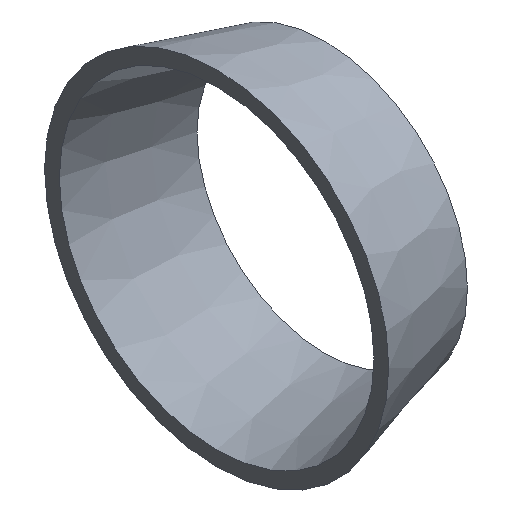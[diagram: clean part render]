
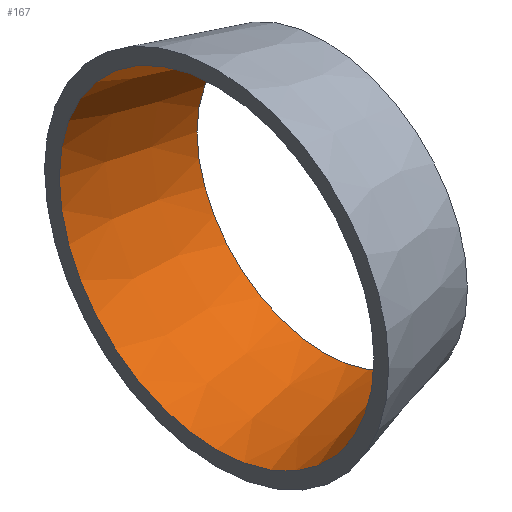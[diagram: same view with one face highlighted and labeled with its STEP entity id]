
A CAD part, isometric view. The second image highlights one B-rep face of the part: STEP entity #167.
In plain terms, the highlighted conical face has half-angle 15.255 degrees and reference radius 16 mm.
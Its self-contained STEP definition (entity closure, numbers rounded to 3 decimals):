
#43 = PLANE('',#44);
#44 = AXIS2_PLACEMENT_3D('',#45,#46,#47);
#45 = CARTESIAN_POINT('',(0.,0.,0.));
#46 = DIRECTION('',(1.,0.,0.));
#47 = DIRECTION('',(0.,1.,0.));
#90 = PLANE('',#91);
#91 = AXIS2_PLACEMENT_3D('',#92,#93,#94);
#92 = CARTESIAN_POINT('',(11.,0.,0.));
#93 = DIRECTION('',(1.,0.,0.));
#94 = DIRECTION('',(0.,1.,0.));
#109 = EDGE_CURVE('',#110,#110,#112,.T.);
#110 = VERTEX_POINT('',#111);
#111 = CARTESIAN_POINT('',(0.,16.,0.));
#112 = SURFACE_CURVE('',#113,(#118,#125),.PCURVE_S1.);
#113 = CIRCLE('',#114,16.);
#114 = AXIS2_PLACEMENT_3D('',#115,#116,#117);
#115 = CARTESIAN_POINT('',(0.,0.,0.));
#116 = DIRECTION('',(1.,0.,0.));
#117 = DIRECTION('',(0.,1.,0.));
#118 = PCURVE('',#43,#119);
#119 = DEFINITIONAL_REPRESENTATION('',(#120),#124);
#120 = CIRCLE('',#121,16.);
#121 = AXIS2_PLACEMENT_2D('',#122,#123);
#122 = CARTESIAN_POINT('',(0.,0.));
#123 = DIRECTION('',(1.,0.));
#124 = ( GEOMETRIC_REPRESENTATION_CONTEXT(2) 
PARAMETRIC_REPRESENTATION_CONTEXT() REPRESENTATION_CONTEXT('2D SPACE',''
  ) );
#125 = PCURVE('',#126,#131);
#126 = CONICAL_SURFACE('',#127,16.,0.266);
#127 = AXIS2_PLACEMENT_3D('',#128,#129,#130);
#128 = CARTESIAN_POINT('',(0.,0.,0.));
#129 = DIRECTION('',(-1.,-0.,-0.));
#130 = DIRECTION('',(0.,1.,0.));
#131 = DEFINITIONAL_REPRESENTATION('',(#132),#136);
#132 = LINE('',#133,#134);
#133 = CARTESIAN_POINT('',(-0.,-0.));
#134 = VECTOR('',#135,1.);
#135 = DIRECTION('',(-1.,-0.));
#136 = ( GEOMETRIC_REPRESENTATION_CONTEXT(2) 
PARAMETRIC_REPRESENTATION_CONTEXT() REPRESENTATION_CONTEXT('2D SPACE',''
  ) );
#144 = EDGE_CURVE('',#145,#145,#147,.T.);
#145 = VERTEX_POINT('',#146);
#146 = CARTESIAN_POINT('',(11.,13.,0.));
#147 = SURFACE_CURVE('',#148,(#153,#160),.PCURVE_S1.);
#148 = CIRCLE('',#149,13.);
#149 = AXIS2_PLACEMENT_3D('',#150,#151,#152);
#150 = CARTESIAN_POINT('',(11.,0.,0.));
#151 = DIRECTION('',(1.,0.,0.));
#152 = DIRECTION('',(0.,1.,0.));
#153 = PCURVE('',#90,#154);
#154 = DEFINITIONAL_REPRESENTATION('',(#155),#159);
#155 = CIRCLE('',#156,13.);
#156 = AXIS2_PLACEMENT_2D('',#157,#158);
#157 = CARTESIAN_POINT('',(0.,0.));
#158 = DIRECTION('',(1.,0.));
#159 = ( GEOMETRIC_REPRESENTATION_CONTEXT(2) 
PARAMETRIC_REPRESENTATION_CONTEXT() REPRESENTATION_CONTEXT('2D SPACE',''
  ) );
#160 = PCURVE('',#126,#161);
#161 = DEFINITIONAL_REPRESENTATION('',(#162),#166);
#162 = LINE('',#163,#164);
#163 = CARTESIAN_POINT('',(-0.,-11.));
#164 = VECTOR('',#165,1.);
#165 = DIRECTION('',(-1.,-0.));
#166 = ( GEOMETRIC_REPRESENTATION_CONTEXT(2) 
PARAMETRIC_REPRESENTATION_CONTEXT() REPRESENTATION_CONTEXT('2D SPACE',''
  ) );
#167 = ADVANCED_FACE('',(#168),#126,.F.);
#168 = FACE_BOUND('',#169,.F.);
#169 = EDGE_LOOP('',(#170,#188,#189,#190));
#170 = ORIENTED_EDGE('',*,*,#171,.F.);
#171 = EDGE_CURVE('',#110,#145,#172,.T.);
#172 = SEAM_CURVE('',#173,(#176,#182),.PCURVE_S1.);
#173 = B_SPLINE_CURVE_WITH_KNOTS('',1,(#174,#175),.UNSPECIFIED.,.F.,.F.,
  (2,2),(0.,1.),.PIECEWISE_BEZIER_KNOTS.);
#174 = CARTESIAN_POINT('',(0.,16.,0.));
#175 = CARTESIAN_POINT('',(11.,13.,0.));
#176 = PCURVE('',#126,#177);
#177 = DEFINITIONAL_REPRESENTATION('',(#178),#181);
#178 = B_SPLINE_CURVE_WITH_KNOTS('',1,(#179,#180),.UNSPECIFIED.,.F.,.F.,
  (2,2),(0.,1.),.PIECEWISE_BEZIER_KNOTS.);
#179 = CARTESIAN_POINT('',(0.,0.));
#180 = CARTESIAN_POINT('',(0.,-11.));
#181 = ( GEOMETRIC_REPRESENTATION_CONTEXT(2) 
PARAMETRIC_REPRESENTATION_CONTEXT() REPRESENTATION_CONTEXT('2D SPACE',''
  ) );
#182 = PCURVE('',#126,#183);
#183 = DEFINITIONAL_REPRESENTATION('',(#184),#187);
#184 = B_SPLINE_CURVE_WITH_KNOTS('',1,(#185,#186),.UNSPECIFIED.,.F.,.F.,
  (2,2),(0.,1.),.PIECEWISE_BEZIER_KNOTS.);
#185 = CARTESIAN_POINT('',(-6.283,0.));
#186 = CARTESIAN_POINT('',(-6.283,-11.));
#187 = ( GEOMETRIC_REPRESENTATION_CONTEXT(2) 
PARAMETRIC_REPRESENTATION_CONTEXT() REPRESENTATION_CONTEXT('2D SPACE',''
  ) );
#188 = ORIENTED_EDGE('',*,*,#109,.T.);
#189 = ORIENTED_EDGE('',*,*,#171,.T.);
#190 = ORIENTED_EDGE('',*,*,#144,.F.);
